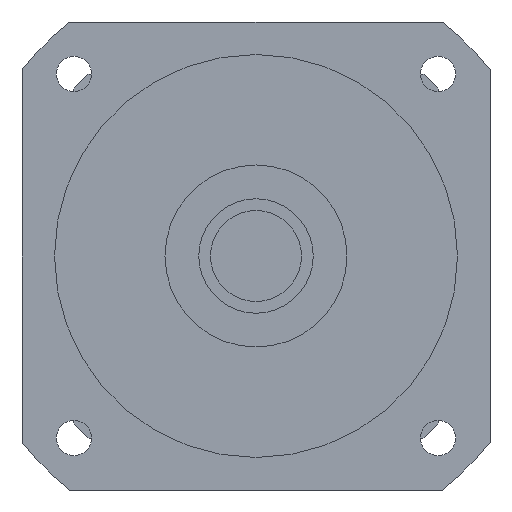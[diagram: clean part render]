
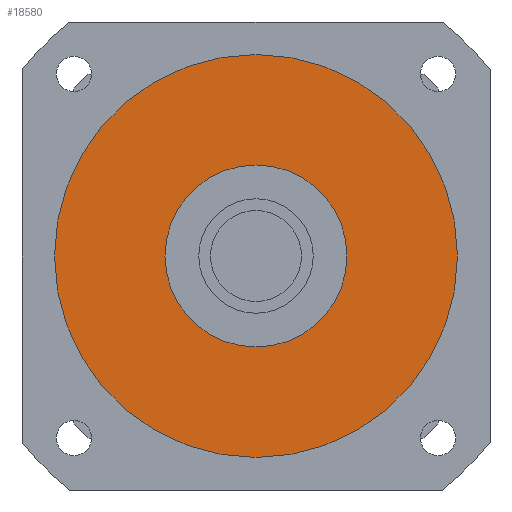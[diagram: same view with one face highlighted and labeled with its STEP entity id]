
A CAD part, left-side view. The second image highlights one B-rep face of the part: STEP entity #18580.
In plain terms, the highlighted planar face has unit normal (-1, 0, 0) as drawn and (0, 0, -1) by its records, which use the part's own axes.
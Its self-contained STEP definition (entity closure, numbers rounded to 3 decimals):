
#18000=CARTESIAN_POINT('',(77.5,0.,-84.7));
#18010=VERTEX_POINT('',#18000);
#18100=CARTESIAN_POINT('',(-77.5,0.,-84.7));
#18110=VERTEX_POINT('',#18100);
#18140=CARTESIAN_POINT('',(0.,0.,
-84.7));
#18150=DIRECTION('',(0.,0.,1.));
#18160=DIRECTION('',(0.,1.,0.));
#18170=AXIS2_PLACEMENT_3D('',#18140,#18150,#18160);
#18180=CIRCLE('',#18170,77.5);
#18190=CARTESIAN_POINT('',(0.,77.5,-84.7));
#18200=VERTEX_POINT('',#18190);
#18210=EDGE_CURVE('',#18200,#18110,#18180,.T.);
#18230=EDGE_CURVE('',#18010,#18200,#18180,.T.);
#18280=CARTESIAN_POINT('',(0.,0.,
-84.7));
#18290=DIRECTION('',(0.,0.,1.));
#18300=DIRECTION('',(-1.,0.,0.));
#18310=AXIS2_PLACEMENT_3D('',#18280,#18290,#18300);
#18320=PLANE('',#18310);
#18330=ORIENTED_EDGE('',*,*,#18210,.F.);
#18340=EDGE_CURVE('',#18110,#18010,#18180,.T.);
#18350=ORIENTED_EDGE('',*,*,#18340,.F.);
#18360=ORIENTED_EDGE('',*,*,#18230,.F.);
#18370=EDGE_LOOP('',(#18360,#18350,#18330));
#18380=FACE_OUTER_BOUND('',#18370,.T.);
#18390=CARTESIAN_POINT('',(0.,0.,
-84.7));
#18400=DIRECTION('',(0.,0.,1.));
#18410=DIRECTION('',(0.,1.,0.));
#18420=AXIS2_PLACEMENT_3D('',#18390,#18400,#18410);
#18430=CIRCLE('',#18420,35.);
#18440=CARTESIAN_POINT('',(-35.,0.,-84.7));
#18450=VERTEX_POINT('',#18440);
#18460=CARTESIAN_POINT('',(35.,0.,-84.7));
#18470=VERTEX_POINT('',#18460);
#18480=EDGE_CURVE('',#18450,#18470,#18430,.T.);
#18490=ORIENTED_EDGE('',*,*,#18480,.T.);
#18500=CARTESIAN_POINT('',(0.,35.,-84.7));
#18510=VERTEX_POINT('',#18500);
#18520=EDGE_CURVE('',#18510,#18450,#18430,.T.);
#18530=ORIENTED_EDGE('',*,*,#18520,.T.);
#18540=EDGE_CURVE('',#18470,#18510,#18430,.T.);
#18550=ORIENTED_EDGE('',*,*,#18540,.T.);
#18560=EDGE_LOOP('',(#18550,#18530,#18490));
#18570=FACE_BOUND('',#18560,.T.);
#18580=ADVANCED_FACE('',(#18380,#18570),#18320,.F.);
